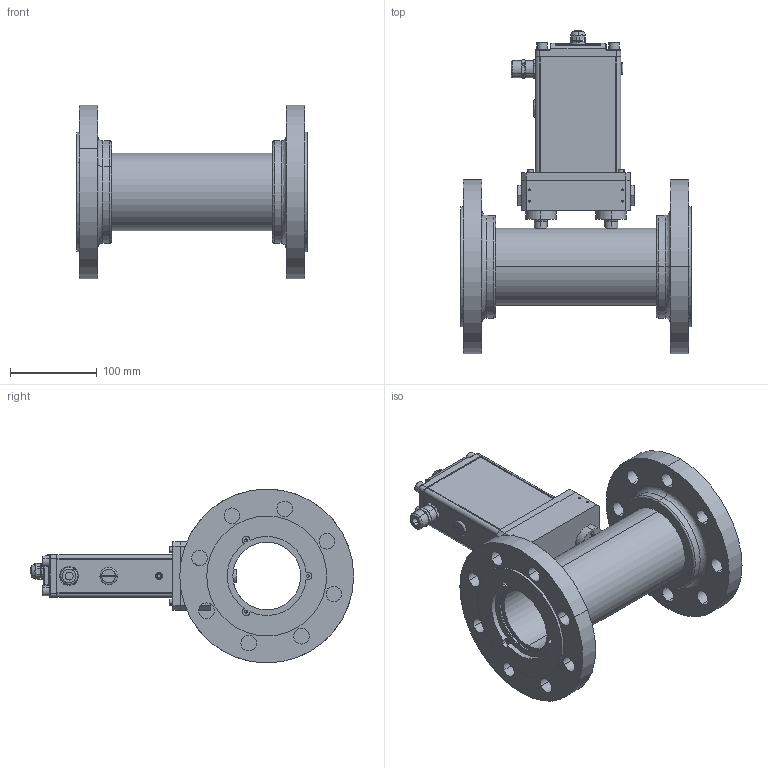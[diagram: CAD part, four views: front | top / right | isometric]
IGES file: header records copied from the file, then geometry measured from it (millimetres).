
Start section: SolidWorks IGES file using analytic representation for surfaces
Global section: file name: G:\Engineering\CAD MODELS FOR SALES\CAD MODEL STORAGE\SLA\SLAMF64\CUSTOMER FILES\IGES\SLAMF64-R-3R-0-A-REVA.IGS; native system: SolidWorks 2020; preprocessor: SolidWorks 2020; author: CFehr; date: 220303.113317; units: inch
Bounding box: 265 x 371.96 x 200 mm (x, y, z)
Volume: 2299532.8 mm3; surface area: 504843.6 mm2
Topology: 31 solids, 31 shells, 1112 faces, 2662 edges, 1668 vertices
Faces by surface type: revolution 690, plane 360, bspline 62
